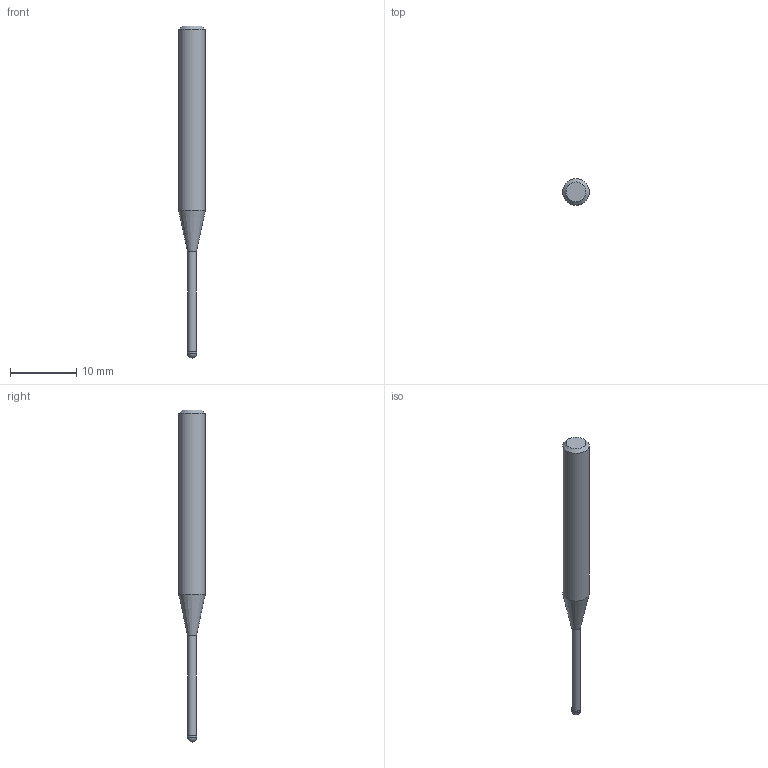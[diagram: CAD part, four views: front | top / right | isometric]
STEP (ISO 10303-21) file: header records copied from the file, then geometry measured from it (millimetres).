
FILE_DESCRIPTION((''),'2;1');
FILE_NAME('C:\Users\nsx150\AppData\Local\Temp\Mastercam 2021\ARV7HD45SN\TEMP.step','2023-06-13T16:36:16',(''),(''),'STEP Write','Mastercam 2021 ... CNC Software, Inc.','');
FILE_SCHEMA(('AUTOMOTIVE_DESIGN'));
Length unit declared in the file: millimetre
Products named in the file (1): None
Bounding box: 4 x 4 x 50 mm (x, y, z)
Volume: 408 mm3; surface area: 482 mm2
Topology: 2 solids, 2 shells, 9 faces, 14 edges, 8 vertices
Faces by surface type: plane 3, cylinder 3, cone 2, sphere 1
Full cylindrical faces by diameter (mm): 1.35 x1, 1.4 x1, 4 x1
Entity records: 211 total; most frequent: DIRECTION 36, CARTESIAN_POINT 25, AXIS2_PLACEMENT_3D 18, ORIENTED_EDGE 14, EDGE_LOOP 14, STYLED_ITEM 12, ADVANCED_FACE 9, FACE_BOUND 8
